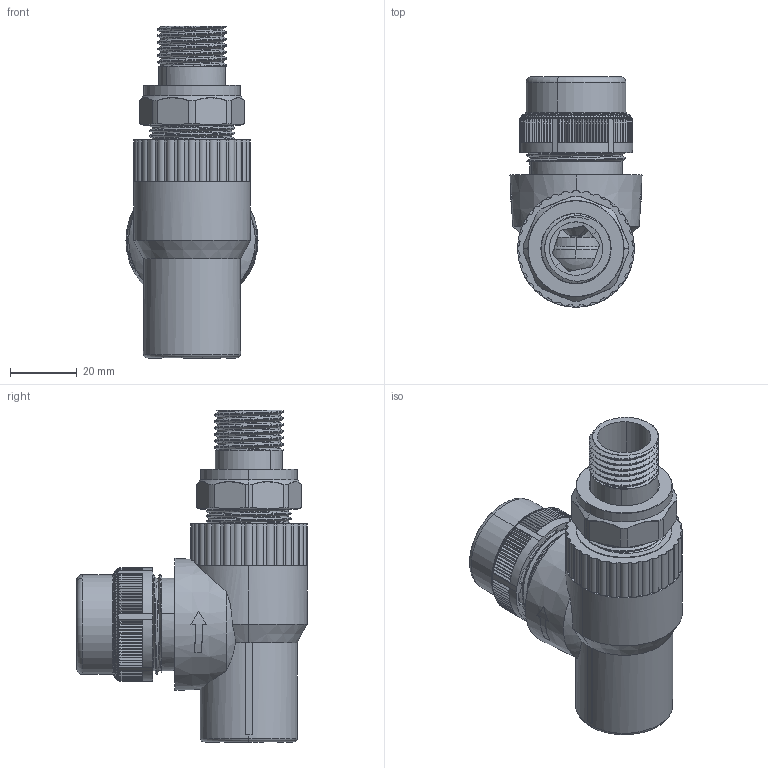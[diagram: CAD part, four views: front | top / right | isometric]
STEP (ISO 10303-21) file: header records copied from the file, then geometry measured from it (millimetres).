
FILE_DESCRIPTION (( 'STEP AP203' ), '1' );
FILE_NAME ('PKT01_ASM.STEP', '2022-08-23T09:24:49', ( '' ), ( '' ), 'SwSTEP 2.0', 'SolidWorks 2021', '' );
FILE_SCHEMA (( 'CONFIG_CONTROL_DESIGN' ));
Length unit declared in the file: millimetre
Products named in the file (9): CPKT02_cap; GPKT02_gasket; 1_2UNNKP02; 1_2INPKT02; VPKT02_valve; NPKT02_nut; PKT01_ASM; PLPKT01; 30PKT02_ incert M30
Assembly tree (8 placements, depth 2):
  PKT01_ASM
    PLPKT01
    1_2INPKT02
    1_2UNNKP02
    30PKT02_ incert M30
    CPKT02_cap
    GPKT02_gasket
    NPKT02_nut
    VPKT02_valve
Bounding box: 39.62 x 69.12 x 99.59 mm (x, y, z)
Volume: 71672.5 mm3; surface area: 44535.9 mm2
Topology: 8 solids, 8 shells, 2338 faces, 6659 edges, 4411 vertices
Faces by surface type: plane 1349, cylinder 482, torus 240, cone 140, bspline 126, sphere 1
Entity records: 92867 total; most frequent: CARTESIAN_POINT 36138, ORIENTED_EDGE 13310, DIRECTION 9620, EDGE_CURVE 6655, VERTEX_POINT 4410, AXIS2_PLACEMENT_3D 3492, VECTOR 2636, LINE 2636
